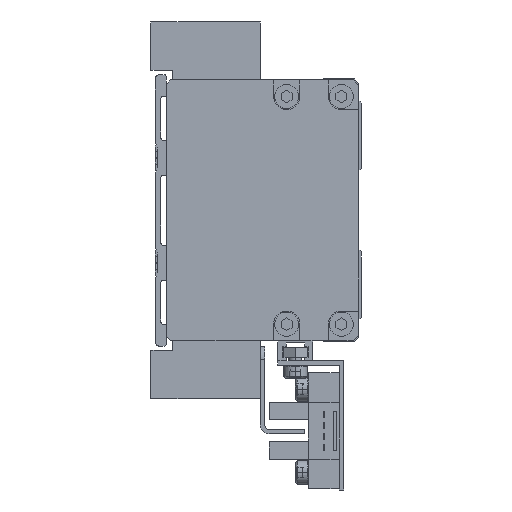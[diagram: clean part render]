
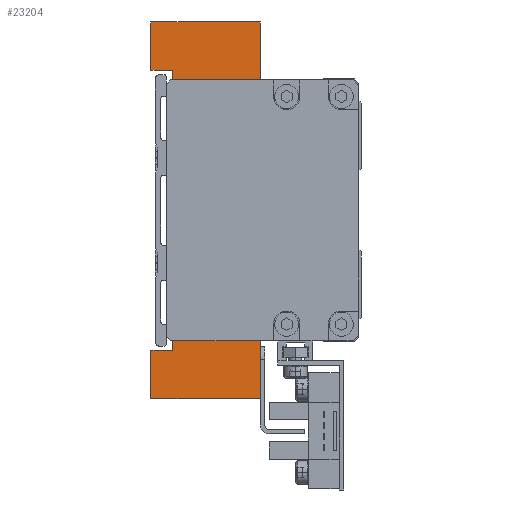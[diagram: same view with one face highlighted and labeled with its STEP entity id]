
A CAD part, left-side view. The second image highlights one B-rep face of the part: STEP entity #23204.
In plain terms, the highlighted planar face has unit normal (-1, 0, 0).
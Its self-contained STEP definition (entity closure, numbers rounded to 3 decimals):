
#470 = DIRECTION ( 'NONE',  ( 0., 1., 0. ) ) ;
#965 = CARTESIAN_POINT ( 'NONE',  ( -77., 9., 21. ) ) ;
#997 = VERTEX_POINT ( 'NONE', #1265 ) ;
#1265 = CARTESIAN_POINT ( 'NONE',  ( -77., 25., -43. ) ) ;
#1368 = VERTEX_POINT ( 'NONE', #40634 ) ;
#2128 = VECTOR ( 'NONE', #19611, 1000. ) ;
#2175 = DIRECTION ( 'NONE',  ( 0., 0., -1. ) ) ;
#3146 = DIRECTION ( 'NONE',  ( 0., -1., 0. ) ) ;
#3574 = CARTESIAN_POINT ( 'NONE',  ( -77., 10., 21. ) ) ;
#4296 = ORIENTED_EDGE ( 'NONE', *, *, #38423, .F. ) ;
#4706 = EDGE_CURVE ( 'NONE', #1368, #11292, #21770, .T. ) ;
#4899 = EDGE_LOOP ( 'NONE', ( #38353, #25844, #4296, #30737, #21222, #37268, #8799, #26619, #30230, #12634, #20983, #14379, #31682, #22287, #35317, #22420, #18796, #43027 ) ) ;
#5424 = LINE ( 'NONE', #10800, #38824 ) ;
#5805 = CARTESIAN_POINT ( 'NONE',  ( -77., 0., -28. ) ) ;
#5880 = DIRECTION ( 'NONE',  ( 0., 0., -1. ) ) ;
#5928 = DIRECTION ( 'NONE',  ( 0., 0., 1. ) ) ;
#6607 = VERTEX_POINT ( 'NONE', #20160 ) ;
#6955 = CARTESIAN_POINT ( 'NONE',  ( -77., 0., -43. ) ) ;
#7741 = VECTOR ( 'NONE', #19393, 1000. ) ;
#7881 = CARTESIAN_POINT ( 'NONE',  ( -77., 9., -21. ) ) ;
#8123 = CARTESIAN_POINT ( 'NONE',  ( -77., 0., -28. ) ) ;
#8645 = CARTESIAN_POINT ( 'NONE',  ( -77., 9., -21. ) ) ;
#8799 = ORIENTED_EDGE ( 'NONE', *, *, #4706, .F. ) ;
#9056 = EDGE_CURVE ( 'NONE', #11202, #1368, #36445, .T. ) ;
#9098 = CARTESIAN_POINT ( 'NONE',  ( -77., 20., 32. ) ) ;
#9315 = VERTEX_POINT ( 'NONE', #10100 ) ;
#9362 = VECTOR ( 'NONE', #22513, 1000. ) ;
#9468 = DIRECTION ( 'NONE',  ( 1., 0., 0. ) ) ;
#9482 = CARTESIAN_POINT ( 'NONE',  ( -77., 5., -28. ) ) ;
#9637 = EDGE_CURVE ( 'NONE', #18200, #38139, #39886, .T. ) ;
#10017 = VECTOR ( 'NONE', #36287, 1000. ) ;
#10100 = CARTESIAN_POINT ( 'NONE',  ( -77., 20., -32. ) ) ;
#10171 = AXIS2_PLACEMENT_3D ( 'NONE', #29417, #9468, #22591 ) ;
#10800 = CARTESIAN_POINT ( 'NONE',  ( -77., 9., -21. ) ) ;
#11202 = VERTEX_POINT ( 'NONE', #41284 ) ;
#11292 = VERTEX_POINT ( 'NONE', #12407 ) ;
#11444 = EDGE_CURVE ( 'NONE', #21589, #17184, #37652, .T. ) ;
#11498 = EDGE_CURVE ( 'NONE', #9315, #11202, #29261, .T. ) ;
#11874 = DIRECTION ( 'NONE',  ( 0., 0., -1. ) ) ;
#12332 = VERTEX_POINT ( 'NONE', #23033 ) ;
#12407 = CARTESIAN_POINT ( 'NONE',  ( -77., 25., 43. ) ) ;
#12634 = ORIENTED_EDGE ( 'NONE', *, *, #41204, .F. ) ;
#13290 = DIRECTION ( 'NONE',  ( 0., 1., 0. ) ) ;
#13821 = VERTEX_POINT ( 'NONE', #42568 ) ;
#13871 = EDGE_CURVE ( 'NONE', #18476, #30349, #16650, .T. ) ;
#13927 = LINE ( 'NONE', #5805, #19643 ) ;
#13958 = CARTESIAN_POINT ( 'NONE',  ( -77., 20., -32. ) ) ;
#14379 = ORIENTED_EDGE ( 'NONE', *, *, #30134, .F. ) ;
#16239 = LINE ( 'NONE', #3574, #34945 ) ;
#16650 = LINE ( 'NONE', #9482, #7741 ) ;
#16867 = EDGE_CURVE ( 'NONE', #12332, #19955, #22579, .T. ) ;
#17184 = VERTEX_POINT ( 'NONE', #27313 ) ;
#17282 = CARTESIAN_POINT ( 'NONE',  ( -77., 0., -43. ) ) ;
#18084 = VECTOR ( 'NONE', #34549, 1000. ) ;
#18200 = VERTEX_POINT ( 'NONE', #34629 ) ;
#18264 = VECTOR ( 'NONE', #40257, 1000. ) ;
#18476 = VERTEX_POINT ( 'NONE', #40284 ) ;
#18694 = VERTEX_POINT ( 'NONE', #17282 ) ;
#18796 = ORIENTED_EDGE ( 'NONE', *, *, #33281, .T. ) ;
#19393 = DIRECTION ( 'NONE',  ( 0., -1., 0. ) ) ;
#19611 = DIRECTION ( 'NONE',  ( 0., 0., -1. ) ) ;
#19643 = VECTOR ( 'NONE', #2175, 1000. ) ;
#19919 = VERTEX_POINT ( 'NONE', #8645 ) ;
#19955 = VERTEX_POINT ( 'NONE', #25827 ) ;
#20160 = CARTESIAN_POINT ( 'NONE',  ( -77., 5., 28. ) ) ;
#20476 = FACE_OUTER_BOUND ( 'NONE', #4899, .T. ) ;
#20983 = ORIENTED_EDGE ( 'NONE', *, *, #33806, .F. ) ;
#21089 = DIRECTION ( 'NONE',  ( 0., -1., 0. ) ) ;
#21222 = ORIENTED_EDGE ( 'NONE', *, *, #9637, .F. ) ;
#21589 = VERTEX_POINT ( 'NONE', #32086 ) ;
#21770 = LINE ( 'NONE', #22008, #31142 ) ;
#21793 = CARTESIAN_POINT ( 'NONE',  ( -77., 5., 28. ) ) ;
#22008 = CARTESIAN_POINT ( 'NONE',  ( -77., 25., 32. ) ) ;
#22287 = ORIENTED_EDGE ( 'NONE', *, *, #13871, .F. ) ;
#22420 = ORIENTED_EDGE ( 'NONE', *, *, #27893, .F. ) ;
#22513 = DIRECTION ( 'NONE',  ( 0., 1., 0. ) ) ;
#22579 = LINE ( 'NONE', #42934, #38737 ) ;
#22591 = DIRECTION ( 'NONE',  ( 0., 0., -1. ) ) ;
#22825 = EDGE_CURVE ( 'NONE', #38139, #6607, #28315, .T. ) ;
#23033 = CARTESIAN_POINT ( 'NONE',  ( -77., 10., 21. ) ) ;
#23204 = ADVANCED_FACE ( 'NONE', ( #20476 ), #42557, .F. ) ;
#23440 = CARTESIAN_POINT ( 'NONE',  ( -77., 0., 28. ) ) ;
#23739 = EDGE_CURVE ( 'NONE', #42636, #18476, #27702, .T. ) ;
#24316 = LINE ( 'NONE', #7881, #18084 ) ;
#24657 = VECTOR ( 'NONE', #11874, 1000. ) ;
#24797 = VECTOR ( 'NONE', #40638, 1000. ) ;
#25077 = LINE ( 'NONE', #6955, #40733 ) ;
#25819 = VECTOR ( 'NONE', #35993, 1000. ) ;
#25827 = CARTESIAN_POINT ( 'NONE',  ( -77., 10., -21. ) ) ;
#25844 = ORIENTED_EDGE ( 'NONE', *, *, #11444, .T. ) ;
#26157 = CARTESIAN_POINT ( 'NONE',  ( -77., 5., -21. ) ) ;
#26619 = ORIENTED_EDGE ( 'NONE', *, *, #9056, .F. ) ;
#26696 = VECTOR ( 'NONE', #27333, 1000. ) ;
#26735 = CARTESIAN_POINT ( 'NONE',  ( -77., 25., 43. ) ) ;
#26789 = LINE ( 'NONE', #21793, #24657 ) ;
#27313 = CARTESIAN_POINT ( 'NONE',  ( -77., 5., 21. ) ) ;
#27333 = DIRECTION ( 'NONE',  ( 0., 0., 1. ) ) ;
#27702 = LINE ( 'NONE', #26157, #2128 ) ;
#27893 = EDGE_CURVE ( 'NONE', #19919, #42636, #5424, .T. ) ;
#28281 = CARTESIAN_POINT ( 'NONE',  ( -77., 5., -21. ) ) ;
#28315 = LINE ( 'NONE', #37334, #31916 ) ;
#29204 = LINE ( 'NONE', #26735, #18264 ) ;
#29261 = LINE ( 'NONE', #13958, #26696 ) ;
#29417 = CARTESIAN_POINT ( 'NONE',  ( -77., 10., 0. ) ) ;
#29844 = LINE ( 'NONE', #39927, #10017 ) ;
#30134 = EDGE_CURVE ( 'NONE', #18694, #997, #25077, .T. ) ;
#30230 = ORIENTED_EDGE ( 'NONE', *, *, #11498, .F. ) ;
#30349 = VERTEX_POINT ( 'NONE', #8123 ) ;
#30737 = ORIENTED_EDGE ( 'NONE', *, *, #22825, .F. ) ;
#31142 = VECTOR ( 'NONE', #5928, 1000. ) ;
#31682 = ORIENTED_EDGE ( 'NONE', *, *, #33493, .F. ) ;
#31916 = VECTOR ( 'NONE', #470, 1000. ) ;
#32086 = CARTESIAN_POINT ( 'NONE',  ( -77., 9., 21. ) ) ;
#32377 = VECTOR ( 'NONE', #21089, 1000. ) ;
#33281 = EDGE_CURVE ( 'NONE', #19919, #19955, #24316, .T. ) ;
#33493 = EDGE_CURVE ( 'NONE', #30349, #18694, #13927, .T. ) ;
#33786 = CARTESIAN_POINT ( 'NONE',  ( -77., 25., -43. ) ) ;
#33806 = EDGE_CURVE ( 'NONE', #997, #13821, #41504, .T. ) ;
#34549 = DIRECTION ( 'NONE',  ( 0., 1., 0. ) ) ;
#34629 = CARTESIAN_POINT ( 'NONE',  ( -77., 0., 43. ) ) ;
#34945 = VECTOR ( 'NONE', #3146, 1000. ) ;
#35317 = ORIENTED_EDGE ( 'NONE', *, *, #23739, .F. ) ;
#35993 = DIRECTION ( 'NONE',  ( 0., 0., -1. ) ) ;
#36287 = DIRECTION ( 'NONE',  ( 0., -1., 0. ) ) ;
#36445 = LINE ( 'NONE', #9098, #9362 ) ;
#37268 = ORIENTED_EDGE ( 'NONE', *, *, #42392, .F. ) ;
#37334 = CARTESIAN_POINT ( 'NONE',  ( -77., 0., 28. ) ) ;
#37652 = LINE ( 'NONE', #965, #32377 ) ;
#37765 = DIRECTION ( 'NONE',  ( 0., -1., 0. ) ) ;
#38139 = VERTEX_POINT ( 'NONE', #23440 ) ;
#38353 = ORIENTED_EDGE ( 'NONE', *, *, #41804, .T. ) ;
#38423 = EDGE_CURVE ( 'NONE', #6607, #17184, #26789, .T. ) ;
#38737 = VECTOR ( 'NONE', #5880, 1000. ) ;
#38824 = VECTOR ( 'NONE', #37765, 1000. ) ;
#39886 = LINE ( 'NONE', #42425, #25819 ) ;
#39927 = CARTESIAN_POINT ( 'NONE',  ( -77., 25., -32. ) ) ;
#40257 = DIRECTION ( 'NONE',  ( 0., -1., 0. ) ) ;
#40284 = CARTESIAN_POINT ( 'NONE',  ( -77., 5., -28. ) ) ;
#40634 = CARTESIAN_POINT ( 'NONE',  ( -77., 25., 32. ) ) ;
#40638 = DIRECTION ( 'NONE',  ( 0., 0., 1. ) ) ;
#40733 = VECTOR ( 'NONE', #13290, 1000. ) ;
#41204 = EDGE_CURVE ( 'NONE', #13821, #9315, #29844, .T. ) ;
#41284 = CARTESIAN_POINT ( 'NONE',  ( -77., 20., 32. ) ) ;
#41504 = LINE ( 'NONE', #33786, #24797 ) ;
#41804 = EDGE_CURVE ( 'NONE', #12332, #21589, #16239, .T. ) ;
#42392 = EDGE_CURVE ( 'NONE', #11292, #18200, #29204, .T. ) ;
#42425 = CARTESIAN_POINT ( 'NONE',  ( -77., 0., 43. ) ) ;
#42557 = PLANE ( 'NONE',  #10171 ) ;
#42568 = CARTESIAN_POINT ( 'NONE',  ( -77., 25., -32. ) ) ;
#42636 = VERTEX_POINT ( 'NONE', #28281 ) ;
#42934 = CARTESIAN_POINT ( 'NONE',  ( -77., 10., 21. ) ) ;
#43027 = ORIENTED_EDGE ( 'NONE', *, *, #16867, .F. ) ;
